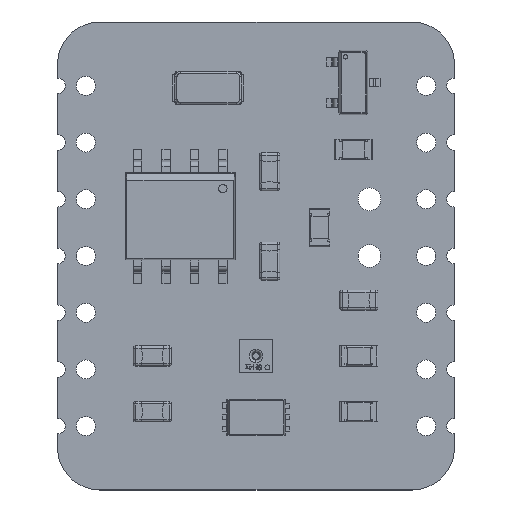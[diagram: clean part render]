
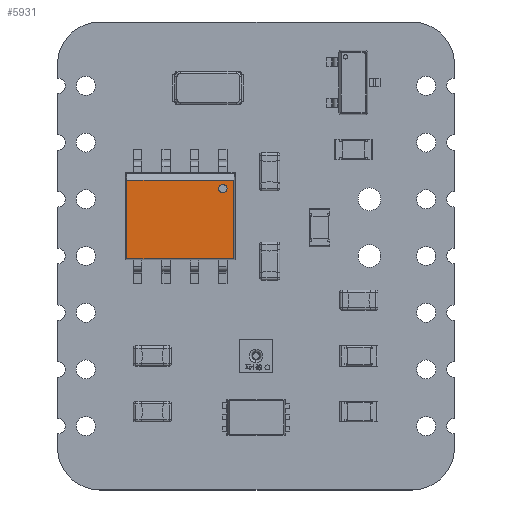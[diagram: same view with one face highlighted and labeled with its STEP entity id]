
A CAD part, top view. The second image highlights one B-rep face of the part: STEP entity #5931.
In plain terms, the highlighted planar face has unit normal (0, 0, 1) as drawn and (0, 1, 0) by its records, which use the part's own axes.
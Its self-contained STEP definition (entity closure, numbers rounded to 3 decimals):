
#5660 = VERTEX_POINT('',#5661);
#5661 = CARTESIAN_POINT('',(-1.243,1.75,-1.718));
#5667 = EDGE_CURVE('',#5668,#5660,#5670,.T.);
#5668 = VERTEX_POINT('',#5669);
#5669 = CARTESIAN_POINT('',(-1.243,1.75,-2.093));
#5670 = CIRCLE('',#5671,0.188);
#5671 = AXIS2_PLACEMENT_3D('',#5672,#5673,#5674);
#5672 = CARTESIAN_POINT('',(-1.243,1.75,-1.905));
#5673 = DIRECTION('',(0.,1.,0.));
#5674 = DIRECTION('',(0.,0.,1.));
#5823 = EDGE_CURVE('',#5824,#5826,#5828,.T.);
#5824 = VERTEX_POINT('',#5825);
#5825 = CARTESIAN_POINT('',(-1.618,1.75,2.394));
#5826 = VERTEX_POINT('',#5827);
#5827 = CARTESIAN_POINT('',(1.894,1.75,2.394));
#5828 = LINE('',#5829,#5830);
#5829 = CARTESIAN_POINT('',(-1.95,1.75,2.394));
#5830 = VECTOR('',#5831,1.);
#5831 = DIRECTION('',(1.,0.,0.));
#5864 = VERTEX_POINT('',#5865);
#5865 = CARTESIAN_POINT('',(1.894,1.75,-2.394));
#5871 = EDGE_CURVE('',#5826,#5864,#5872,.T.);
#5872 = LINE('',#5873,#5874);
#5873 = CARTESIAN_POINT('',(1.894,1.75,2.45));
#5874 = VECTOR('',#5875,1.);
#5875 = DIRECTION('',(0.,0.,-1.));
#5895 = VERTEX_POINT('',#5896);
#5896 = CARTESIAN_POINT('',(-1.618,1.75,-2.394));
#5902 = EDGE_CURVE('',#5864,#5895,#5903,.T.);
#5903 = LINE('',#5904,#5905);
#5904 = CARTESIAN_POINT('',(1.95,1.75,-2.394));
#5905 = VECTOR('',#5906,1.);
#5906 = DIRECTION('',(-1.,0.,0.));
#5931 = ADVANCED_FACE('',(#5932,#5942),#5953,.T.);
#5932 = FACE_BOUND('',#5933,.T.);
#5933 = EDGE_LOOP('',(#5934,#5941));
#5934 = ORIENTED_EDGE('',*,*,#5935,.F.);
#5935 = EDGE_CURVE('',#5660,#5668,#5936,.T.);
#5936 = CIRCLE('',#5937,0.188);
#5937 = AXIS2_PLACEMENT_3D('',#5938,#5939,#5940);
#5938 = CARTESIAN_POINT('',(-1.243,1.75,-1.905));
#5939 = DIRECTION('',(0.,1.,0.));
#5940 = DIRECTION('',(0.,0.,1.));
#5941 = ORIENTED_EDGE('',*,*,#5667,.F.);
#5942 = FACE_BOUND('',#5943,.T.);
#5943 = EDGE_LOOP('',(#5944,#5950,#5951,#5952));
#5944 = ORIENTED_EDGE('',*,*,#5945,.F.);
#5945 = EDGE_CURVE('',#5824,#5895,#5946,.T.);
#5946 = LINE('',#5947,#5948);
#5947 = CARTESIAN_POINT('',(-1.618,1.75,0.));
#5948 = VECTOR('',#5949,1.);
#5949 = DIRECTION('',(0.,0.,-1.));
#5950 = ORIENTED_EDGE('',*,*,#5823,.T.);
#5951 = ORIENTED_EDGE('',*,*,#5871,.T.);
#5952 = ORIENTED_EDGE('',*,*,#5902,.T.);
#5953 = PLANE('',#5954);
#5954 = AXIS2_PLACEMENT_3D('',#5955,#5956,#5957);
#5955 = CARTESIAN_POINT('',(0.,1.75,0.));
#5956 = DIRECTION('',(0.,1.,0.));
#5957 = DIRECTION('',(0.,0.,1.));
